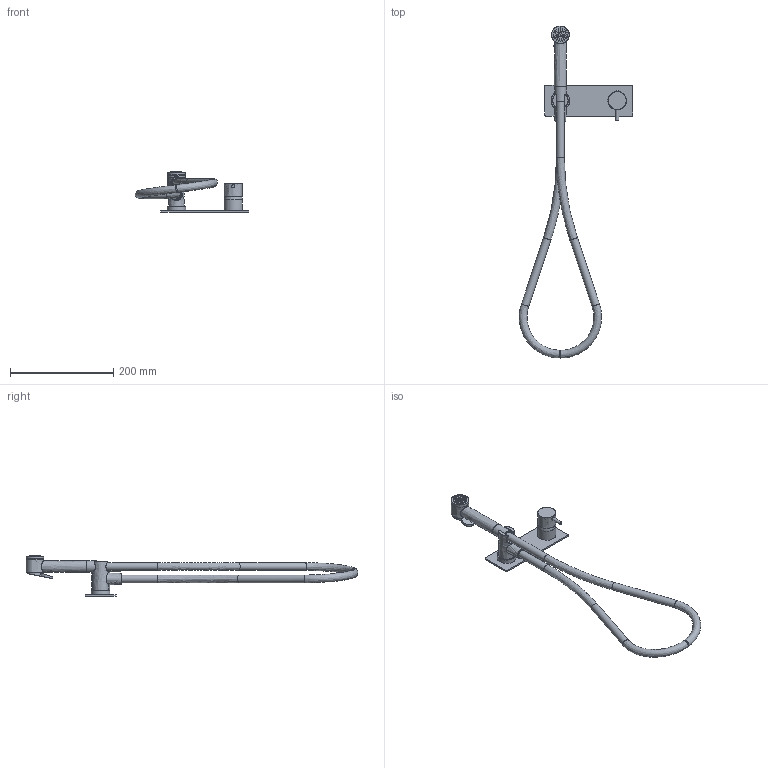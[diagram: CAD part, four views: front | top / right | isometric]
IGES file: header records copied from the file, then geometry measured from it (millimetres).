
Global section: file name: 7ANA101; native system: Autodesk Inventor 2017; preprocessor: unknown; author: PIZZERA; date: 20210409.114017; units: millimetre
Bounding box: 219.65 x 642.55 x 77.9 mm (x, y, z)
Volume: 402092.3 mm3; surface area: 102204 mm2
Topology: 1 solids, 1 shells, 224 faces, 690 edges, 472 vertices
Faces by surface type: bspline 224
